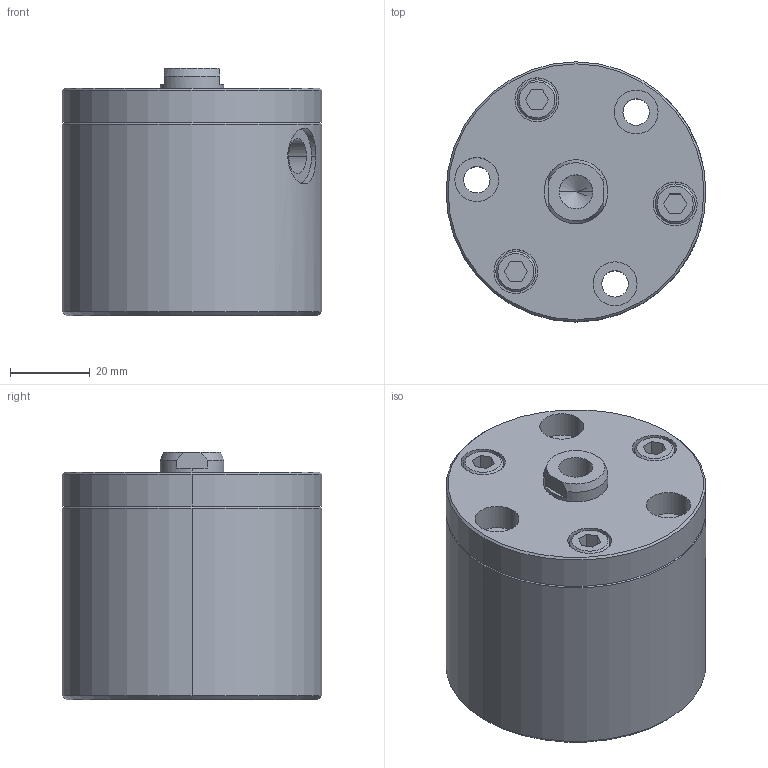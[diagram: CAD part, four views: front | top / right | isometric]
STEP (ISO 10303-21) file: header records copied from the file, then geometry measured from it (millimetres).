
FILE_DESCRIPTION (( 'STEP AP203' ), '1' );
FILE_NAME ('4360 322.STEP', '2016-01-28T12:20:26', ( '' ), ( '' ), 'SwSTEP 2.0', 'SolidWorks 2015', '' );
FILE_SCHEMA (( 'CONFIG_CONTROL_DESIGN' ));
Length unit declared in the file: millimetre
Products named in the file (1): 4360 322
Bounding box: 65 x 65 x 62 mm (x, y, z)
Volume: 176017.1 mm3; surface area: 26067.1 mm2
Topology: 1 solids, 1 shells, 109 faces, 246 edges, 155 vertices
Faces by surface type: cylinder 46, plane 43, cone 20
Entity records: 3295 total; most frequent: CARTESIAN_POINT 707, DIRECTION 558, ORIENTED_EDGE 480, EDGE_CURVE 240, AXIS2_PLACEMENT_3D 216, VERTEX_POINT 155, EDGE_LOOP 137, LINE 126
